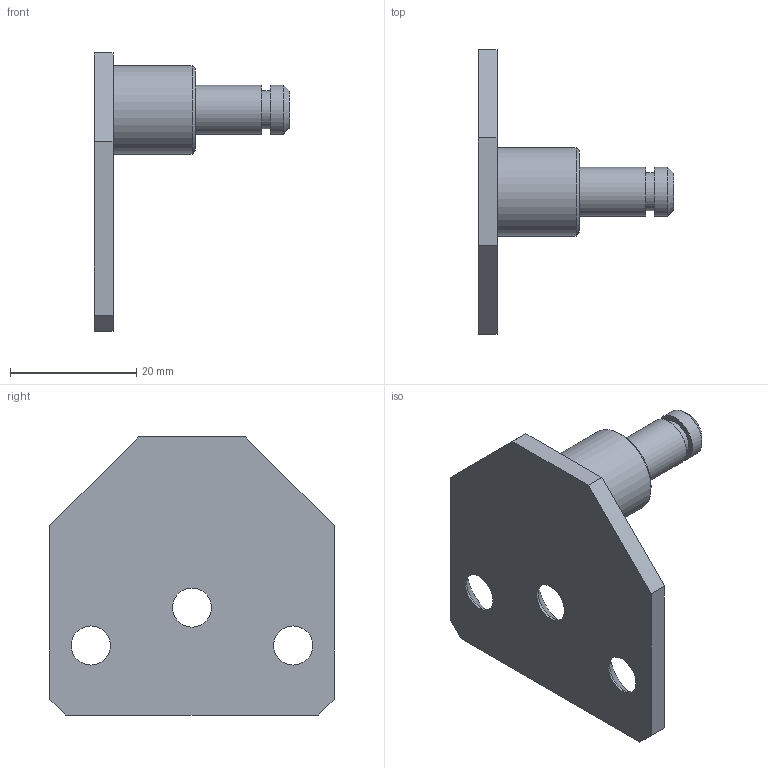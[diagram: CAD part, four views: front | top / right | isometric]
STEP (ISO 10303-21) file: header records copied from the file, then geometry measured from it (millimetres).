
FILE_DESCRIPTION(/* description */ ('Fissaggio art. 900BA1'),/* implementation_level */ '2;1');
FILE_NAME(/* name */ '\\OMNI-pdm\Grafica\Catalogo profili serie 3\STEP\accessori\900BA1.stp',/* time_stamp */ '2022-04-18T11:10:00+02:00',/* author */ ('daniele.berto'),/* organization */ (''),/* preprocessor_version */ 'ST-DEVELOPER v18.1',/* originating_system */ 'Autodesk Inventor 2021',/* authorisation */ '');
FILE_SCHEMA (('CONFIG_CONTROL_DESIGN'));
Length unit declared in the file: millimetre
Products named in the file (1): 900BA1
Bounding box: 31 x 45 x 44 mm (x, y, z)
Volume: 7472 mm3; surface area: 4903.9 mm2
Topology: 1 solids, 1 shells, 26 faces, 55 edges, 35 vertices
Faces by surface type: plane 14, cylinder 7, cone 5
Full cylindrical faces by diameter (mm): 6 x1, 6.2 x3, 7.8 x2, 14 x1
Entity records: 751 total; most frequent: DIRECTION 128, CARTESIAN_POINT 117, ORIENTED_EDGE 110, EDGE_CURVE 55, AXIS2_PLACEMENT_3D 46, EDGE_LOOP 36, LINE 36, VECTOR 36
